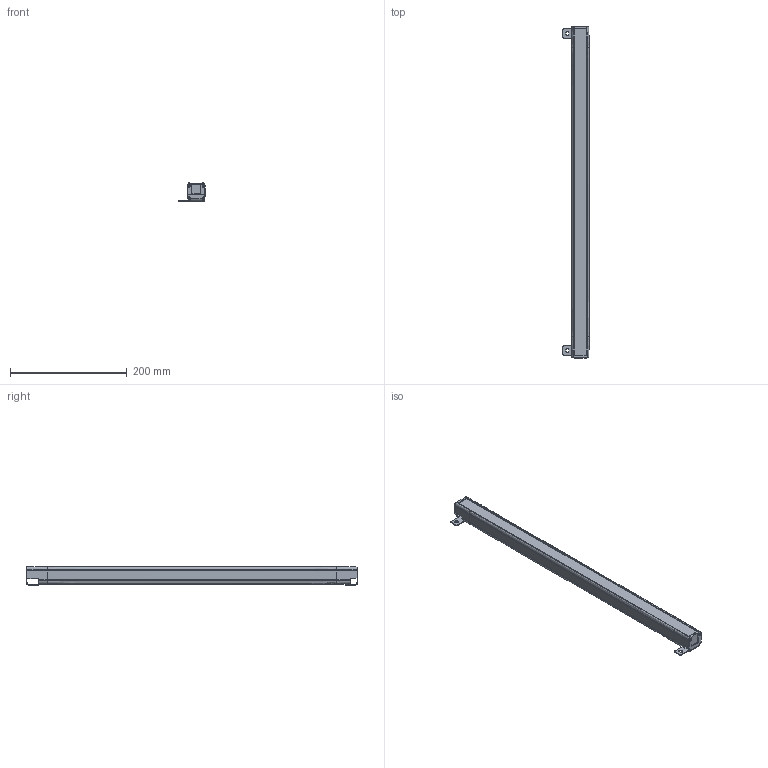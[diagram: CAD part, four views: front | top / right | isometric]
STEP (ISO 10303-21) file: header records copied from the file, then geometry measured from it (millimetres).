
FILE_DESCRIPTION(/* description */ (''),/* implementation_level */ '2;1');
FILE_NAME(/* name */ '5610（30X30）.stp',/* time_stamp */ '2019-08-30T16:27:50+08:00',/* author */ (''),/* organization */ (''),/* preprocessor_version */ 'ST-DEVELOPER v16',/* originating_system */ 'SIEMENS PLM Software NX 10.0',/* authorisation */ '');
FILE_SCHEMA (('AP203_CONFIGURATION_CONTROLLED_3D_DESIGN_OF_MECHANICAL_PARTS_AND_ASSEMBLIES_MIM_LF { 1 0 10303 403 2 1 2}'));
Length unit declared in the file: millimetre
Products named in the file (1): Admi0DE08CD01f3n
Bounding box: 44.89 x 568.4 x 31.39 mm (x, y, z)
Volume: 175693.2 mm3; surface area: 188905.3 mm2
Topology: 6 solids, 6 shells, 441 faces, 1311 edges, 871 vertices
Faces by surface type: plane 256, cylinder 132, cone 32, bspline 14, extrusion 7
Full cylindrical faces by diameter (mm): 1.5 x2, 3.2 x8, 3.5 x8
Entity records: 15650 total; most frequent: CARTESIAN_POINT 3843, ORIENTED_EDGE 2528, DIRECTION 2314, EDGE_CURVE 1264, VECTOR 856, VERTEX_POINT 855, LINE 849, AXIS2_PLACEMENT_3D 729
